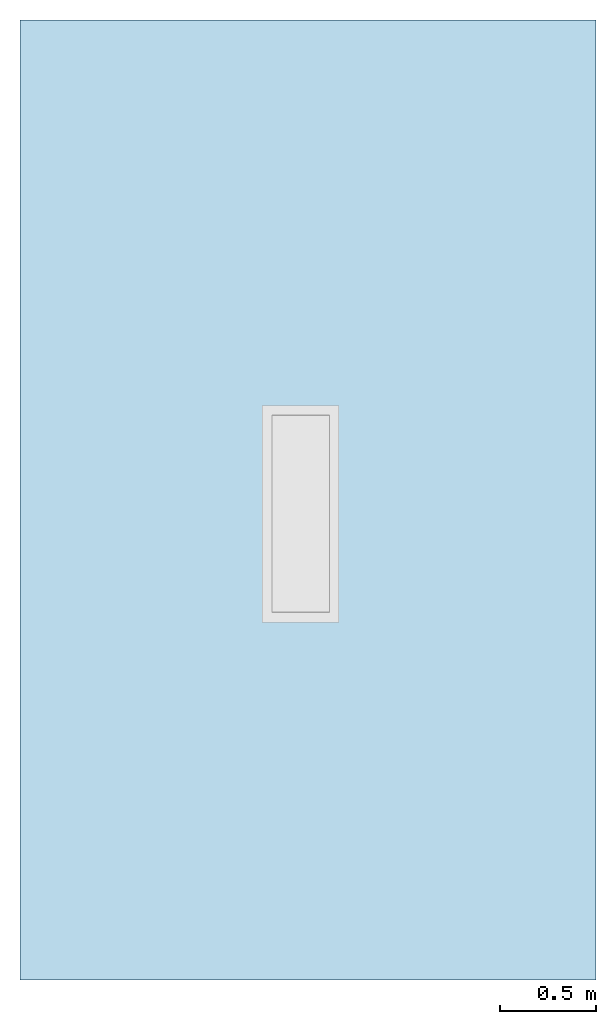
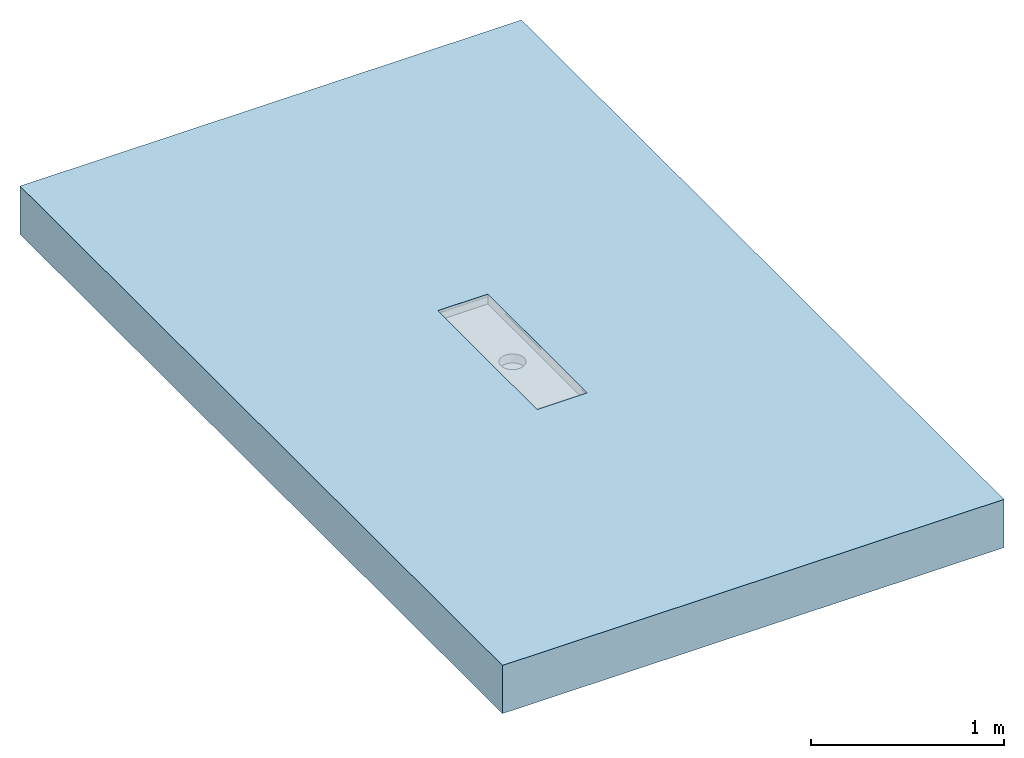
# One storey, incomplete: 1 slab, 1 opening.
"""IFC2X3 building model written with IfcOpenShell, lengths in millimetres."""

import ifcopenshell
import ifcopenshell.guid

model = None  # the IFC model being written
_history = None  # IfcOwnerHistory: only IFC2X3 demands one
_inside = {}  # id of a spatial element -> (the spatial element, [elements in it])
_under = {}  # id of a project, library or spatial element -> (it, [spatial elements below it])
_declared = {}  # id of a project -> (the project, [libraries it declares])
_typed = {}  # id of a type object -> (the type object, [elements of that type])
_made_of = {}  # id of a material, layer set ... -> (it, [elements and type objects made of it])


def new_model(schema):
    """Start an empty IFC model of exactly this schema.

    Asked for "IFC4X3", IfcOpenShell would pick the latest addendum, in which some entities
    have other attributes; the version numbers below select the first issue.
    IFC2X3 requires an IfcOwnerHistory on every rooted entity: one is made here for all.
    """
    global model, _history
    if schema == "IFC4X3":
        model = ifcopenshell.file(schema_version=(4, 3, 0, 0))
    else:
        model = ifcopenshell.file(schema=schema)
    _inside.clear()
    _under.clear()
    _declared.clear()
    _typed.clear()
    _made_of.clear()
    _history = None
    if model.schema == "IFC2X3":
        org = make("IfcOrganization", Name="unknown")
        user = make(
            "IfcPersonAndOrganization",
            ThePerson=make("IfcPerson", FamilyName="unknown"),
            TheOrganization=org,
        )
        app = make(
            "IfcApplication",
            ApplicationDeveloper=org,
            Version="unknown",
            ApplicationFullName="unknown",
            ApplicationIdentifier="unknown",
        )
        _history = make(
            "IfcOwnerHistory",
            OwningUser=user,
            OwningApplication=app,
            ChangeAction="ADDED",
            CreationDate=0,
        )
    return model


def make(cls, **values):
    """One entity of the class cls with the attributes given. An attribute that is None is left unset."""
    return model.create_entity(
        cls, **{name: value for name, value in values.items() if value is not None}
    )


def entity(cls, *values):
    """Any entity or typed value of the class cls, its attributes in the order of the schema. None: left unset."""
    e = model.create_entity(cls)
    for i, value in enumerate(values):
        if value is not None:
            e[i] = value
    return e


def rooted(cls, **values):
    """An entity with a GlobalId (a new one), such as an element, a storey or a relation."""
    return make(cls, GlobalId=ifcopenshell.guid.new(), OwnerHistory=_history, **values)


def si_unit(unit_type, name, prefix=None):
    """IfcSIUnit, for example si_unit("LENGTHUNIT", "METRE", prefix="MILLI")."""
    return make("IfcSIUnit", UnitType=unit_type, Prefix=prefix, Name=name)


def converted_unit(unit_type, name, factor, base, dimensions=None, offset=None):
    """IfcConversionBasedUnit, such as the inch: factor (a typed value) times the base unit."""
    return make(
        "IfcConversionBasedUnit"
        if offset is None
        else "IfcConversionBasedUnitWithOffset",
        ConversionOffset=offset,
        Dimensions=None
        if dimensions is None
        else entity("IfcDimensionalExponents", *dimensions),
        UnitType=unit_type,
        Name=name,
        ConversionFactor=make(
            "IfcMeasureWithUnit", ValueComponent=factor, UnitComponent=base
        ),
    )


def derived_unit(unit_type, elements):
    """IfcDerivedUnit: a product of units, each with its exponent."""
    return make(
        "IfcDerivedUnit",
        Elements=[
            make("IfcDerivedUnitElement", Unit=unit, Exponent=power)
            for unit, power in elements
        ],
        UnitType=unit_type,
    )


def assignment(units):
    """IfcUnitAssignment: the units of a project."""
    return None if units is None else make("IfcUnitAssignment", Units=units)


def point(xyz):
    """IfcCartesianPoint."""
    return None if xyz is None else make("IfcCartesianPoint", Coordinates=xyz)


def direction(xyz):
    """IfcDirection."""
    return None if xyz is None else make("IfcDirection", DirectionRatios=xyz)


def frame(location, z_axis=None, x_axis=None):
    """IfcAxis2Placement3D, a coordinate frame: its origin and axes. An axis left out is left unset."""
    return make(
        "IfcAxis2Placement3D",
        Location=point(location),
        Axis=direction(z_axis),
        RefDirection=direction(x_axis),
    )


def frame_2d(location, x_axis=None):
    """IfcAxis2Placement2D, a coordinate frame in the plane: its origin and x axis."""
    return make(
        "IfcAxis2Placement2D", Location=point(location), RefDirection=direction(x_axis)
    )


def origin():
    """The frame at (0, 0, 0) with its axes left unset."""
    return frame((0.0, 0.0, 0.0))


def place(relative_to, where):
    """IfcLocalPlacement: puts the frame where relative to a parent placement (None: the world)."""
    return make(
        "IfcLocalPlacement", PlacementRelTo=relative_to, RelativePlacement=where
    )


def context(
    kind, dimensions, precision=None, world=None, true_north=None, identifier=None
):
    """IfcGeometricRepresentationContext, for example the 3D "Model" context."""
    return make(
        "IfcGeometricRepresentationContext",
        ContextIdentifier=identifier,
        ContextType=kind,
        CoordinateSpaceDimension=dimensions,
        Precision=precision,
        WorldCoordinateSystem=world,
        TrueNorth=true_north,
    )


def subcontext(parent, identifier, kind, view, scale=None):
    """IfcGeometricRepresentationSubContext, for example "Body" below "Model"."""
    return make(
        "IfcGeometricRepresentationSubContext",
        ContextIdentifier=identifier,
        ContextType=kind,
        ParentContext=parent,
        TargetScale=scale,
        TargetView=view,
    )


def project(units=None, contexts=None):
    """IfcProject with its units and contexts."""
    return rooted(
        "IfcProject",
        Name="project",
        RepresentationContexts=contexts,
        UnitsInContext=assignment(units),
    )


def spatial(cls, under=None, at=None, **own):
    """A site, building, storey or space (cls), placed at a placement, below another one or the project."""
    s = rooted(cls, ObjectPlacement=at, **own)
    if under is not None:
        _under.setdefault(under.id(), (under, []))[1].append(s)
    return s


def profile(cls, at=None, kind="AREA", **sizes):
    """A parametric profile (cls). Its sizes go by their IFC names, for example OverallWidth=200.0."""
    return make(cls, ProfileType=kind, Position=at, **sizes)


def rectangle(**sizes):
    """IfcRectangleProfileDef."""
    return profile("IfcRectangleProfileDef", **sizes)


def extrude(swept, where, along, depth):
    """IfcExtrudedAreaSolid: the profile swept, set in the frame where, extruded along a direction by depth."""
    return make(
        "IfcExtrudedAreaSolid",
        SweptArea=swept,
        Position=where,
        ExtrudedDirection=direction(along),
        Depth=depth,
    )


def faces_of(points, faces, orient=None, outer=None):
    """IfcFace entities. A face is a list of loops; a loop is a list of indices into points, from 0.

    orient and outer hold one flag for each loop. By default every Orientation is true, the
    first loop of a face is its IfcFaceOuterBound and the others are IfcFaceBound.
    """
    made = []
    for i, loops in enumerate(faces):
        bounds = []
        for j, loop in enumerate(loops):
            is_outer = j == 0 if outer is None else outer[i][j]
            bounds.append(
                make(
                    "IfcFaceOuterBound" if is_outer else "IfcFaceBound",
                    Bound=make("IfcPolyLoop", Polygon=[points[k] for k in loop]),
                    Orientation=True if orient is None else orient[i][j],
                )
            )
        made.append(make("IfcFace", Bounds=bounds))
    return made


def faceted_brep(points, faces, orient=None, outer=None, voids=None):
    """IfcFacetedBrep: a solid bounded by flat faces; with voids (closed shells), ...WithVoids."""
    shared = [point(p) for p in points]
    hull = make("IfcClosedShell", CfsFaces=faces_of(shared, faces, orient, outer))
    if voids is None:
        return make("IfcFacetedBrep", Outer=hull)
    return make(
        "IfcFacetedBrepWithVoids",
        Outer=hull,
        Voids=[
            make(cls, CfsFaces=faces_of(shared, fs, o, b)) for cls, fs, o, b in voids
        ],
    )


def shape(context_of_items, identifier, shape_type, items):
    """IfcShapeRepresentation: the items that make up one representation, for example the "Body"."""
    return make(
        "IfcShapeRepresentation",
        ContextOfItems=context_of_items,
        RepresentationIdentifier=identifier,
        RepresentationType=shape_type,
        Items=items,
    )


def material(Name=None, Category=None):
    """IfcMaterial."""
    return make("IfcMaterial", Name=Name, Category=Category)


def layer(
    of_material, thickness, ventilated=None, Name=None, Category=None, Priority=None
):
    """IfcMaterialLayer: one layer of a wall or slab, of a material (None: an air gap)."""
    return make(
        "IfcMaterialLayer",
        Material=of_material,
        LayerThickness=thickness,
        IsVentilated=ventilated,
        Name=Name,
        Category=Category,
        Priority=Priority,
    )


def layer_set(layers, Name=None):
    """IfcMaterialLayerSet."""
    return make("IfcMaterialLayerSet", MaterialLayers=layers, LayerSetName=Name)


def layer_usage(for_layer_set, set_direction, sense, offset, extent=None):
    """IfcMaterialLayerSetUsage: how a layer set lies in its element."""
    return make(
        "IfcMaterialLayerSetUsage",
        ForLayerSet=for_layer_set,
        LayerSetDirection=set_direction,
        DirectionSense=sense,
        OffsetFromReferenceLine=offset,
        ReferenceExtent=extent,
    )


def made_of(thing, what):
    """Note that an element or type object is made of a material, layer set ...; save() writes the relation."""
    if what is not None:
        _made_of.setdefault(what.id(), (what, []))[1].append(thing)
    return thing


def element(
    cls,
    number,
    at=None,
    inside=None,
    cuts=None,
    type_object=None,
    material=None,
    context=None,
    identifier="Body",
    shape_type=None,
    held_by="IfcProductDefinitionShape",
    body=None,
    shapes=None,
    **own,
):
    """One element of the class cls, such as IfcWall. Its Tag is "e" and its number.

    at: its placement. inside: the storey or other place that contains it. cuts: it is an
    opening in that element (IfcRelVoidsElement). A single representation is given by context,
    identifier, shape_type and body (its items); several are given by shapes. held_by: the class
    of the entity that holds the representations. save() writes the other relations.
    """
    e = rooted(cls, Tag="e%d" % number, ObjectPlacement=at, **own)
    if body is not None:
        shapes = [shape(context, identifier, shape_type, body)]
    if shapes is not None:
        e.Representation = make(held_by, Representations=shapes)
    if inside is not None:
        _inside.setdefault(inside.id(), (inside, []))[1].append(e)
    if cuts is not None:
        rooted(
            "IfcRelVoidsElement", RelatingBuildingElement=cuts, RelatedOpeningElement=e
        )
    if type_object is not None:
        _typed.setdefault(type_object.id(), (type_object, []))[1].append(e)
    return made_of(e, material)


def aggregate(whole, parts):
    """IfcRelAggregates: a whole, such as a stair, and the parts it consists of."""
    return rooted("IfcRelAggregates", RelatingObject=whole, RelatedObjects=parts)


def save(model, path):
    """Write the relations noted so far, then the file.

    IfcRelAggregates (storeys below a building ...), IfcRelContainedInSpatialStructure (elements
    in a storey), IfcRelDefinesByType, IfcRelAssociatesMaterial and IfcRelDeclares: one each for
    every whole, place, type object, material and project.
    """
    for whole, parts in _under.values():
        aggregate(whole, parts)
    for where, things in _inside.values():
        rooted(
            "IfcRelContainedInSpatialStructure",
            RelatedElements=things,
            RelatingStructure=where,
        )
    for kind, things in _typed.values():
        rooted("IfcRelDefinesByType", RelatedObjects=things, RelatingType=kind)
    for what, things in _made_of.values():
        rooted("IfcRelAssociatesMaterial", RelatedObjects=things, RelatingMaterial=what)
    for by, libraries in _declared.values():
        rooted("IfcRelDeclares", RelatingContext=by, RelatedDefinitions=libraries)
    model.write(path)


model = new_model("IFC2X3")

# Units and contexts
model_context = context("Model", 3, precision=1e-05, world=origin(), true_north=direction((2.0, 6.12303176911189e-17, 1.0)))
context_of_model = context(None, 3, precision=1e-05, world=origin(), true_north=direction((2.0, 6.12303176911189e-17, 1.0)))
body_context = subcontext(model_context, "Body", "Model", "MODEL_VIEW")
ifc_project = project(units=[si_unit("LENGTHUNIT", "METRE", prefix="MILLI"), converted_unit("AREAUNIT", "SQUARE FOOT", entity("IfcRatioMeasure", 0.09290304), si_unit("AREAUNIT", "SQUARE_METRE"), dimensions=[2, 0, 0, 0, 0, 0, 0]), converted_unit("VOLUMEUNIT", "CUBIC FOOT", entity("IfcRatioMeasure", 0.028316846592), si_unit("VOLUMEUNIT", "CUBIC_METRE"), dimensions=[3, 0, 0, 0, 0, 0, 0]), converted_unit("PLANEANGLEUNIT", "DEGREE", entity("IfcRatioMeasure", 0.0174532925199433), si_unit("PLANEANGLEUNIT", "RADIAN"), dimensions=[0, 0, 0, 0, 0, 0, 0]), si_unit("MASSUNIT", "GRAM", prefix="KILO"), si_unit("TIMEUNIT", "SECOND"), si_unit("THERMODYNAMICTEMPERATUREUNIT", "KELVIN"), derived_unit("THERMALTRANSMITTANCEUNIT", [(si_unit("MASSUNIT", "GRAM", prefix="KILO"), 1), (si_unit("THERMODYNAMICTEMPERATUREUNIT", "KELVIN"), -1), (si_unit("TIMEUNIT", "SECOND"), -3)]), derived_unit("VOLUMETRICFLOWRATEUNIT", [(si_unit("LENGTHUNIT", "METRE"), 3), (si_unit("TIMEUNIT", "SECOND"), -1)]), si_unit("POWERUNIT", "WATT")], contexts=[model_context, context_of_model])

# Site, building, storey
site_placement = place(None, origin())
site = spatial("IfcSite", under=ifc_project, at=site_placement, Name="Default", CompositionType="ELEMENT")
building_placement = place(site_placement, origin())
building = spatial("IfcBuilding", under=site, at=building_placement, CompositionType="ELEMENT")
storey_placement = place(building_placement, origin())
storey = spatial("IfcBuildingStorey", under=building, at=storey_placement, Name="Level 1", CompositionType="ELEMENT", Elevation=0.0)

# Slab, opening
ifc_material = material(Name="Default Floor")
ifc_layer = layer(ifc_material, 304.8)
ifc_layer_set = layer_set([ifc_layer], Name="Floor:Generic - 12\"")
ifc_layer_usage = layer_usage(ifc_layer_set, "AXIS3", "POSITIVE", 0.0)
slab_placement = place(storey_placement, frame((-2592.42688678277, 381.838531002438, -304.8)))
slab = element("IfcSlab", 1, at=slab_placement, inside=storey, material=ifc_layer_usage, Name="Floor:Generic - 12\"", ObjectType="Floor:Generic - 12\"", PredefinedType="FLOOR", context=body_context, shape_type="SweptSolid", body=[
    extrude(rectangle(XDim=5000.0, YDim=3000.0, at=frame_2d((0.0, 0.0), x_axis=(0.0, -1.0))), frame((1500.0, 2500.0, 304.8), z_axis=(0.0, 0.0, -1.0), x_axis=(-1.0, 0.0, 0.0)), (0.0, 0.0, 1.0), 304.8),
])
opening_placement = place(slab_placement, frame((1261.28293842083, 1862.83917419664, 184.151793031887)))
element("IfcOpeningElement", 2, at=opening_placement, cuts=slab, ObjectType="Recess", context=body_context, shape_type="Brep", body=[
    faceted_brep([(50.0, 1080.0, 57.8482069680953), (50.0, 1080.0, 104.148206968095), (350.0, 1080.0, 57.8482069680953), (350.0, 1080.0, 104.148206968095), (350.0, 50.0, 105.648206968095), (350.0, 50.0, 120.648206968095), (50.0, 50.0, 105.648206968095), (50.0, 50.0, 120.648206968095), (350.0, 50.0, 57.8482069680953), (350.0, 50.0, 104.148206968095), (50.0, 50.0, 57.8482069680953), (50.0, 50.0, 104.148206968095), (50.0, 1080.0, 120.648206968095), (50.0, 1080.0, 105.648206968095), (350.0, 1080.0, 105.648206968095), (350.0, 1080.0, 120.648206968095), (164.499999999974, 503.512196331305, 57.8482069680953), (181.623847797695, 496.419266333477, 57.8482069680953), (149.795418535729, 514.795418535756, 57.8482069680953), (200.0, 494.0, 57.8482069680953), (129.0, 565.0, 57.8482069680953), (131.41926633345, 546.623847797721, 57.8482069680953), (138.512196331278, 529.5, 57.8482069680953), (218.376152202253, 496.419266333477, 57.8482069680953), (235.499999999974, 503.512196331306, 57.8482069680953), (250.204581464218, 514.795418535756, 57.8482069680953), (261.487803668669, 529.500000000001, 57.8482069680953), (268.580733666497, 546.623847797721, 57.8482069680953), (271.0, 565.0, 57.8482069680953), (138.512196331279, 600.500000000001, 57.8482069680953), (131.41926633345, 583.37615220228, 57.8482069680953), (149.79541853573, 615.204581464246, 57.8482069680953), (164.499999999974, 626.487803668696, 57.8482069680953), (181.623847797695, 633.580733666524, 57.8482069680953), (200.0, 636.0, 57.8482069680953), (268.580733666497, 583.376152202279, 57.8482069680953), (261.487803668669, 600.5, 57.8482069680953), (235.499999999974, 626.487803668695, 57.8482069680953), (218.376152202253, 633.580733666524, 57.8482069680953), (250.204581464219, 615.204581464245, 57.8482069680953), (149.795418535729, 514.795418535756, 0.0), (200.0, 494.0, 0.0), (181.623847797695, 496.419266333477, 0.0), (164.499999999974, 503.512196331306, 0.0), (138.512196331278, 529.500000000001, 0.0), (131.41926633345, 546.623847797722, 0.0), (164.499999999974, 626.487803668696, 0.0), (250.204581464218, 514.795418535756, 0.0), (235.499999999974, 626.487803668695, 0.0), (235.499999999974, 503.512196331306, 0.0), (218.376152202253, 496.419266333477, 0.0), (261.487803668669, 529.500000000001, 0.0), (261.487803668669, 600.5, 0.0), (268.580733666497, 546.623847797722, 0.0), (271.0, 565.0, 0.0), (268.580733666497, 583.376152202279, 0.0), (131.41926633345, 583.37615220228, 0.0), (138.512196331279, 600.500000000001, 0.0), (149.795418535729, 615.204581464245, 0.0), (181.623847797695, 633.580733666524, 0.0), (218.376152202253, 633.580733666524, 0.0), (250.204581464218, 615.204581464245, 0.0), (200.0, 636.0, 0.0), (129.0, 565.0, 0.0), (0.0, 1130.0, 105.648206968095), (400.0, 1130.0, 105.648206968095), (0.0, 0.0, 105.648206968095), (400.0, 0.0, 105.648206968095), (0.0, 0.0, 104.148206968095), (400.0, 0.0, 104.148206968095), (0.0, 1130.0, 104.148206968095), (400.0, 1130.0, 104.148206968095)], [[[0, 1, 2]], [[3, 2, 1]], [[4, 5, 6]], [[7, 6, 5]], [[8, 9, 10]], [[11, 10, 9]], [[6, 7, 12]], [[12, 13, 6]], [[13, 12, 14]], [[15, 14, 12]], [[5, 4, 14]], [[14, 15, 5]], [[9, 8, 3]], [[2, 3, 8]], [[10, 11, 0]], [[1, 0, 11]], [[7, 5, 12]], [[15, 12, 5]], [[10, 16, 17]], [[16, 10, 18]], [[10, 17, 19]], [[20, 21, 10]], [[22, 18, 10]], [[21, 22, 10]], [[10, 0, 20]], [[8, 19, 23]], [[19, 8, 10]], [[8, 23, 24]], [[24, 25, 8]], [[26, 27, 8]], [[25, 26, 8]], [[8, 27, 28]], [[29, 30, 0]], [[31, 29, 0]], [[32, 0, 33]], [[0, 32, 31]], [[34, 33, 0]], [[0, 2, 34]], [[30, 20, 0]], [[35, 36, 2]], [[28, 35, 2]], [[37, 38, 2]], [[39, 2, 36]], [[2, 39, 37]], [[38, 34, 2]], [[28, 2, 8]], [[40, 41, 42]], [[40, 42, 43]], [[40, 44, 45]], [[41, 40, 46]], [[47, 41, 48]], [[41, 49, 50]], [[41, 47, 49]], [[51, 52, 53]], [[54, 53, 55]], [[52, 51, 47]], [[45, 56, 40]], [[56, 57, 40]], [[40, 57, 58]], [[46, 59, 41]], [[40, 58, 46]], [[60, 41, 59]], [[52, 48, 61]], [[52, 55, 53]], [[52, 47, 48]], [[60, 48, 41]], [[59, 62, 60]], [[56, 45, 63]], [[55, 35, 54]], [[52, 36, 55]], [[60, 62, 38]], [[61, 39, 52]], [[55, 36, 35]], [[35, 28, 54]], [[48, 37, 39]], [[37, 48, 38]], [[48, 60, 38]], [[39, 36, 52]], [[39, 61, 48]], [[62, 34, 38]], [[33, 59, 46]], [[58, 32, 46]], [[29, 57, 56]], [[58, 57, 31]], [[30, 56, 63]], [[59, 33, 34]], [[46, 32, 33]], [[58, 31, 32]], [[57, 29, 31]], [[30, 29, 56]], [[63, 20, 30]], [[59, 34, 62]], [[45, 21, 63]], [[44, 22, 45]], [[40, 43, 16]], [[44, 40, 18]], [[45, 22, 21]], [[21, 20, 63]], [[19, 17, 42]], [[17, 16, 43]], [[18, 40, 16]], [[18, 22, 44]], [[42, 17, 43]], [[42, 41, 19]], [[23, 50, 49]], [[47, 24, 49]], [[26, 51, 53]], [[47, 51, 25]], [[27, 53, 54]], [[50, 23, 19]], [[49, 24, 23]], [[47, 25, 24]], [[51, 26, 25]], [[27, 26, 53]], [[54, 28, 27]], [[50, 19, 41]], [[64, 13, 14]], [[13, 64, 6]], [[65, 14, 4]], [[14, 65, 64]], [[6, 66, 4]], [[66, 6, 64]], [[4, 67, 65]], [[67, 4, 66]], [[68, 11, 9]], [[11, 68, 1]], [[69, 9, 3]], [[9, 69, 68]], [[1, 70, 3]], [[70, 1, 68]], [[3, 71, 69]], [[71, 3, 70]], [[66, 64, 68]], [[70, 68, 64]], [[67, 66, 68]], [[68, 69, 67]], [[65, 67, 71]], [[69, 71, 67]], [[64, 65, 71]], [[71, 70, 64]]]),
])

save(model, "model.ifc")
